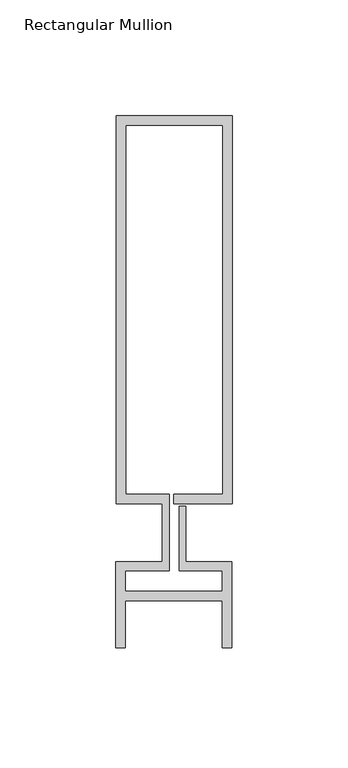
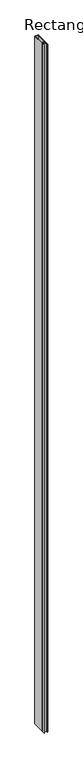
"""IFC4 building model written with IfcOpenShell, lengths in millimetres: member geometry, Rectangular Mullion : Reynaers_CW-50_Mullion-Transom_Vertical_167.5mm_Facecap-03."""

from ifc_helpers import new_model, si_unit, frame, origin, place, context, project, spatial, polyline, outline, extrude, source, transform, mapped, element, save


def rectangular_mullion_0ee489e0(model_context):
    return source(origin(), model_context, "Body", "SweptSolid", [
        extrude(outline(polyline([(-24.8004059, 180.0), (25.1995941, 180.0), (25.1995941, 12.5), (0.0, 12.5), (0.0, 16.5), (21.1995941, 16.5), (21.1995941, 176.0), (-20.8004059, 176.0), (-20.8004059, 16.5), (-1.9004059, 16.5), (-1.9004059, -16.5), (-20.994845, -16.5), (-20.994845, -25.3268728), (20.994845, -25.3268728), (20.994845, -16.5), (2.2995941, -16.5), (2.2995941, 11.5), (5.2995941, 11.5), (5.2995941, -12.5), (24.994845, -12.5), (24.994845, -49.8), (20.994845, -49.8), (20.994845, -29.3268728), (-20.994845, -29.3268728), (-20.994845, -49.8), (-24.994845, -49.8), (-24.994845, -12.5), (-4.9004059, -12.5), (-4.9004059, 12.5), (-24.8004059, 12.5), (-24.8004059, 180.0)])), frame((0.0, 0.0, -10400.0), z_axis=(0.0, 0.0, 1.0), x_axis=(1.0, 0.0, 0.0)), (0.0, 0.0, 1.0), 10400.0),
    ])


if __name__ == "__main__":
    model = new_model("IFC4")
    model_context = context("Model", 3, world=origin())
    ifc_project = project(units=[si_unit("LENGTHUNIT", "METRE", prefix="MILLI")], contexts=[model_context])
    site = spatial("IfcSite", under=ifc_project)
    building = spatial("IfcBuilding", under=site)
    placement = place(None, origin())
    rectangular_mullion_shape = rectangular_mullion_0ee489e0(model_context)
    element("IfcMember", 1, ObjectType="Rectangular Mullion : Reynaers_CW-50_Mullion-Transom_Vertical_167.5mm_Facecap-03", at=placement, inside=building, context=model_context, shape_type="MappedRepresentation", body=[
        mapped(rectangular_mullion_shape, transform((0.0, 0.0, 0.0), x_axis=(1.0, 0.0, 0.0), y_axis=(0.0, 1.0, 0.0), z_axis=(0.0, 0.0, 1.0))),
    ])
    save(model, "model.ifc")
